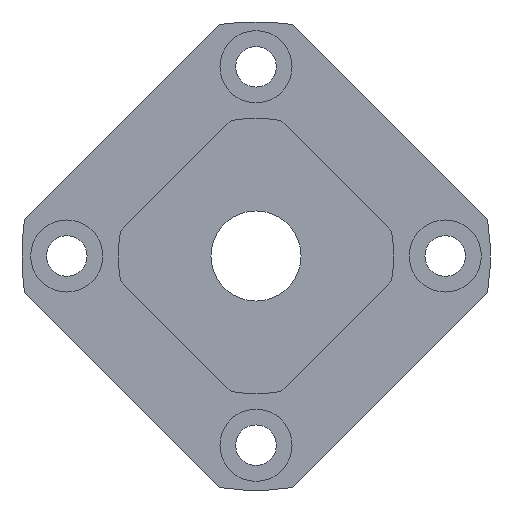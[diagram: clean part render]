
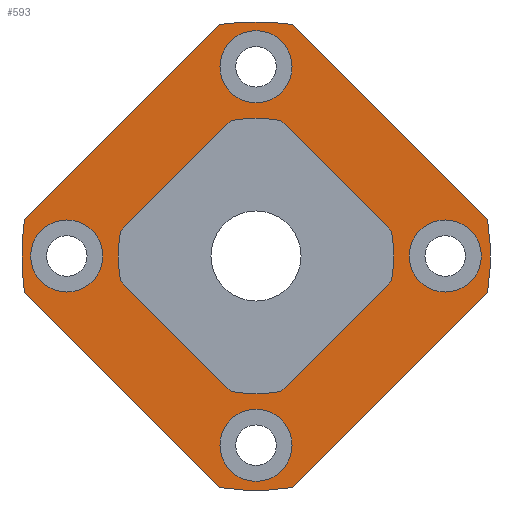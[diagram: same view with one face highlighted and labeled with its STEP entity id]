
A CAD part, left-side view. The second image highlights one B-rep face of the part: STEP entity #593.
In plain terms, the highlighted planar face has unit normal (-1, 0, 0).
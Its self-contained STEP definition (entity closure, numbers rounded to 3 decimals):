
#18=LINE('',#1002,#50);
#22=LINE('',#1011,#54);
#26=LINE('',#1020,#58);
#30=LINE('',#1029,#62);
#36=LINE('',#1066,#68);
#39=LINE('',#1072,#71);
#42=LINE('',#1078,#74);
#45=LINE('',#1084,#77);
#50=VECTOR('',#745,17.359);
#54=VECTOR('',#751,17.359);
#58=VECTOR('',#757,17.359);
#62=VECTOR('',#763,17.359);
#68=VECTOR('',#809,30.659);
#71=VECTOR('',#814,30.659);
#74=VECTOR('',#819,30.659);
#77=VECTOR('',#824,30.659);
#126=FACE_BOUND('',#227,.T.);
#127=FACE_BOUND('',#228,.T.);
#128=FACE_BOUND('',#229,.T.);
#129=FACE_BOUND('',#230,.T.);
#130=FACE_BOUND('',#231,.T.);
#166=FACE_OUTER_BOUND('',#226,.T.);
#226=EDGE_LOOP('',(#521,#522,#523,#524,#525,#526,#527,#528));
#227=EDGE_LOOP('',(#529));
#228=EDGE_LOOP('',(#530));
#229=EDGE_LOOP('',(#531));
#230=EDGE_LOOP('',(#532));
#231=EDGE_LOOP('',(#533,#534,#535,#536,#537,#538,#539,#540));
#236=CIRCLE('',#601,4.);
#240=CIRCLE('',#608,4.);
#244=CIRCLE('',#615,4.);
#248=CIRCLE('',#622,4.);
#254=CIRCLE('',#637,15.3);
#255=CIRCLE('',#639,15.3);
#257=CIRCLE('',#642,15.3);
#260=CIRCLE('',#646,15.3);
#266=CIRCLE('',#659,26.);
#267=CIRCLE('',#661,26.);
#268=CIRCLE('',#663,26.);
#269=CIRCLE('',#665,26.);
#273=VERTEX_POINT('',#857);
#277=VERTEX_POINT('',#868);
#281=VERTEX_POINT('',#879);
#285=VERTEX_POINT('',#890);
#293=VERTEX_POINT('',#995);
#296=VERTEX_POINT('',#1000);
#297=VERTEX_POINT('',#1004);
#300=VERTEX_POINT('',#1009);
#301=VERTEX_POINT('',#1013);
#304=VERTEX_POINT('',#1018);
#305=VERTEX_POINT('',#1022);
#308=VERTEX_POINT('',#1027);
#318=VERTEX_POINT('',#1063);
#319=VERTEX_POINT('',#1065);
#320=VERTEX_POINT('',#1069);
#321=VERTEX_POINT('',#1071);
#322=VERTEX_POINT('',#1075);
#323=VERTEX_POINT('',#1077);
#324=VERTEX_POINT('',#1081);
#325=VERTEX_POINT('',#1083);
#329=EDGE_CURVE('',#273,#273,#236,.T.);
#333=EDGE_CURVE('',#277,#277,#240,.T.);
#337=EDGE_CURVE('',#281,#281,#244,.T.);
#341=EDGE_CURVE('',#285,#285,#248,.T.);
#352=EDGE_CURVE('',#293,#296,#18,.T.);
#356=EDGE_CURVE('',#297,#300,#22,.T.);
#360=EDGE_CURVE('',#301,#304,#26,.T.);
#364=EDGE_CURVE('',#305,#308,#30,.T.);
#366=EDGE_CURVE('',#300,#305,#254,.T.);
#367=EDGE_CURVE('',#304,#297,#255,.T.);
#369=EDGE_CURVE('',#308,#293,#257,.T.);
#372=EDGE_CURVE('',#296,#301,#260,.T.);
#383=EDGE_CURVE('',#318,#319,#36,.T.);
#386=EDGE_CURVE('',#320,#321,#39,.T.);
#389=EDGE_CURVE('',#322,#323,#42,.T.);
#392=EDGE_CURVE('',#324,#325,#45,.T.);
#394=EDGE_CURVE('',#324,#321,#266,.T.);
#395=EDGE_CURVE('',#320,#323,#267,.T.);
#396=EDGE_CURVE('',#318,#325,#268,.T.);
#397=EDGE_CURVE('',#322,#319,#269,.T.);
#521=ORIENTED_EDGE('',*,*,#383,.F.);
#522=ORIENTED_EDGE('',*,*,#396,.T.);
#523=ORIENTED_EDGE('',*,*,#392,.F.);
#524=ORIENTED_EDGE('',*,*,#394,.T.);
#525=ORIENTED_EDGE('',*,*,#386,.F.);
#526=ORIENTED_EDGE('',*,*,#395,.T.);
#527=ORIENTED_EDGE('',*,*,#389,.F.);
#528=ORIENTED_EDGE('',*,*,#397,.T.);
#529=ORIENTED_EDGE('',*,*,#329,.T.);
#530=ORIENTED_EDGE('',*,*,#333,.T.);
#531=ORIENTED_EDGE('',*,*,#337,.T.);
#532=ORIENTED_EDGE('',*,*,#341,.T.);
#533=ORIENTED_EDGE('',*,*,#364,.T.);
#534=ORIENTED_EDGE('',*,*,#369,.T.);
#535=ORIENTED_EDGE('',*,*,#352,.T.);
#536=ORIENTED_EDGE('',*,*,#372,.T.);
#537=ORIENTED_EDGE('',*,*,#360,.T.);
#538=ORIENTED_EDGE('',*,*,#367,.T.);
#539=ORIENTED_EDGE('',*,*,#356,.T.);
#540=ORIENTED_EDGE('',*,*,#366,.T.);
#557=PLANE('',#668);
#593=ADVANCED_FACE('',(#166,#126,#127,#128,#129,#130),#557,.T.);
#601=AXIS2_PLACEMENT_3D('',#858,#680,#681);
#608=AXIS2_PLACEMENT_3D('',#869,#694,#695);
#615=AXIS2_PLACEMENT_3D('',#880,#708,#709);
#622=AXIS2_PLACEMENT_3D('',#891,#722,#723);
#637=AXIS2_PLACEMENT_3D('',#1032,#768,#769);
#639=AXIS2_PLACEMENT_3D('',#1034,#772,#773);
#642=AXIS2_PLACEMENT_3D('',#1037,#778,#779);
#646=AXIS2_PLACEMENT_3D('',#1041,#786,#787);
#659=AXIS2_PLACEMENT_3D('',#1087,#828,#829);
#661=AXIS2_PLACEMENT_3D('',#1089,#832,#833);
#663=AXIS2_PLACEMENT_3D('',#1091,#836,#837);
#665=AXIS2_PLACEMENT_3D('',#1093,#840,#841);
#668=AXIS2_PLACEMENT_3D('',#1097,#846,#847);
#680=DIRECTION('center_axis',(1.,0.,0.));
#681=DIRECTION('ref_axis',(0.,-1.,0.));
#694=DIRECTION('center_axis',(1.,0.,0.));
#695=DIRECTION('ref_axis',(0.,0.,1.));
#708=DIRECTION('center_axis',(1.,0.,0.));
#709=DIRECTION('ref_axis',(0.,1.,0.));
#722=DIRECTION('center_axis',(1.,0.,0.));
#723=DIRECTION('ref_axis',(0.,0.,-1.));
#745=DIRECTION('',(0.,-0.707,-0.707));
#751=DIRECTION('',(0.,0.707,0.707));
#757=DIRECTION('',(0.,0.707,-0.707));
#763=DIRECTION('',(0.,-0.707,0.707));
#768=DIRECTION('center_axis',(1.,0.,0.));
#769=DIRECTION('ref_axis',(0.,0.,-1.));
#772=DIRECTION('center_axis',(1.,0.,0.));
#773=DIRECTION('ref_axis',(0.,0.,-1.));
#778=DIRECTION('center_axis',(1.,0.,0.));
#779=DIRECTION('ref_axis',(0.,0.,-1.));
#786=DIRECTION('center_axis',(1.,0.,0.));
#787=DIRECTION('ref_axis',(0.,0.,-1.));
#809=DIRECTION('',(0.,-0.707,-0.707));
#814=DIRECTION('',(0.,0.707,0.707));
#819=DIRECTION('',(0.,0.707,-0.707));
#824=DIRECTION('',(0.,-0.707,0.707));
#828=DIRECTION('center_axis',(-1.,0.,0.));
#829=DIRECTION('ref_axis',(0.,0.,-1.));
#832=DIRECTION('center_axis',(-1.,0.,0.));
#833=DIRECTION('ref_axis',(0.,0.,-1.));
#836=DIRECTION('center_axis',(-1.,0.,0.));
#837=DIRECTION('ref_axis',(0.,0.,-1.));
#840=DIRECTION('center_axis',(-1.,0.,0.));
#841=DIRECTION('ref_axis',(0.,0.,-1.));
#846=DIRECTION('center_axis',(-1.,0.,0.));
#847=DIRECTION('ref_axis',(0.,0.,1.));
#857=CARTESIAN_POINT('',(7.5,4.,-21.));
#858=CARTESIAN_POINT('Origin',(7.5,0.,-21.));
#868=CARTESIAN_POINT('',(7.5,-21.,-4.));
#869=CARTESIAN_POINT('Origin',(7.5,-21.,0.));
#879=CARTESIAN_POINT('',(7.5,-4.,21.));
#880=CARTESIAN_POINT('Origin',(7.5,0.,21.));
#890=CARTESIAN_POINT('',(7.5,21.,4.));
#891=CARTESIAN_POINT('Origin',(7.5,21.,0.));
#995=CARTESIAN_POINT('',(7.5,-2.772,15.047));
#1000=CARTESIAN_POINT('',(7.5,-15.047,2.772));
#1002=CARTESIAN_POINT('',(7.5,-8.91,8.91));
#1004=CARTESIAN_POINT('',(7.5,2.772,-15.047));
#1009=CARTESIAN_POINT('',(7.5,15.047,-2.772));
#1011=CARTESIAN_POINT('',(7.5,8.91,-8.91));
#1013=CARTESIAN_POINT('',(7.5,-15.047,-2.772));
#1018=CARTESIAN_POINT('',(7.5,-2.772,-15.047));
#1020=CARTESIAN_POINT('',(7.5,-8.91,-8.91));
#1022=CARTESIAN_POINT('',(7.5,15.047,2.772));
#1027=CARTESIAN_POINT('',(7.5,2.772,15.047));
#1029=CARTESIAN_POINT('',(7.5,8.91,8.91));
#1032=CARTESIAN_POINT('Origin',(7.5,0.,0.));
#1034=CARTESIAN_POINT('Origin',(7.5,0.,0.));
#1037=CARTESIAN_POINT('Origin',(7.5,0.,0.));
#1041=CARTESIAN_POINT('Origin',(7.5,0.,0.));
#1063=CARTESIAN_POINT('',(7.5,-4.01,25.689));
#1065=CARTESIAN_POINT('',(7.5,-25.689,4.01));
#1066=CARTESIAN_POINT('',(7.5,-14.849,14.849));
#1069=CARTESIAN_POINT('',(7.5,4.01,-25.689));
#1071=CARTESIAN_POINT('',(7.5,25.689,-4.01));
#1072=CARTESIAN_POINT('',(7.5,14.849,-14.849));
#1075=CARTESIAN_POINT('',(7.5,-25.689,-4.01));
#1077=CARTESIAN_POINT('',(7.5,-4.01,-25.689));
#1078=CARTESIAN_POINT('',(7.5,-14.849,-14.849));
#1081=CARTESIAN_POINT('',(7.5,25.689,4.01));
#1083=CARTESIAN_POINT('',(7.5,4.01,25.689));
#1084=CARTESIAN_POINT('',(7.5,14.849,14.849));
#1087=CARTESIAN_POINT('Origin',(7.5,0.,0.));
#1089=CARTESIAN_POINT('Origin',(7.5,0.,0.));
#1091=CARTESIAN_POINT('Origin',(7.5,0.,0.));
#1093=CARTESIAN_POINT('Origin',(7.5,0.,0.));
#1097=CARTESIAN_POINT('Origin',(7.5,0.,0.));
